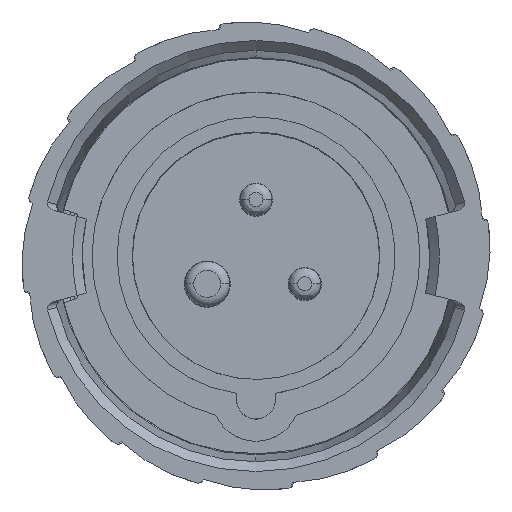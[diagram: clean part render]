
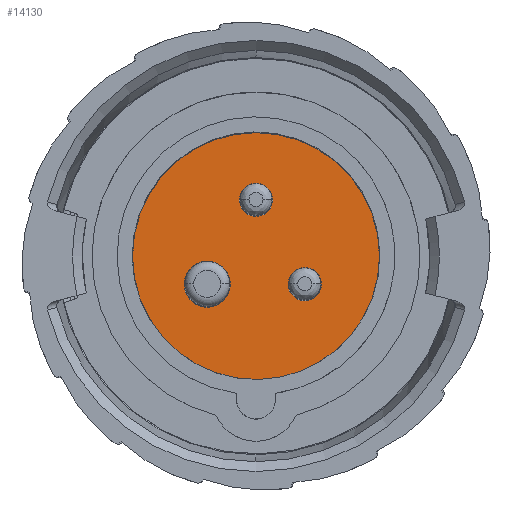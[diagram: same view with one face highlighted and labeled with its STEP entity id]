
A CAD part, top view. The second image highlights one B-rep face of the part: STEP entity #14130.
In plain terms, the highlighted planar face has unit normal (0, 0, 1).
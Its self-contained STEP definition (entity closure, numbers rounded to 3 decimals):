
#13683=CARTESIAN_POINT('',(0.,0.,2.7));
#13684=DIRECTION('',(0.,0.,-1.));
#13685=DIRECTION('',(0.,-1.,0.));
#13686=AXIS2_PLACEMENT_3D('',#13683,#13684,#13685);
#13688=CARTESIAN_POINT('',(0.,0.,2.7));
#13689=DIRECTION('',(0.,0.,-1.));
#13690=DIRECTION('',(0.,1.,0.));
#13691=AXIS2_PLACEMENT_3D('',#13688,#13689,#13690);
#13693=CARTESIAN_POINT('',(-7.578,-4.375,2.7));
#13694=DIRECTION('',(0.,0.,1.));
#13695=DIRECTION('',(0.,-1.,0.));
#13696=AXIS2_PLACEMENT_3D('',#13693,#13694,#13695);
#13698=CARTESIAN_POINT('',(-7.578,-4.375,2.7));
#13699=DIRECTION('',(0.,0.,1.));
#13700=DIRECTION('',(0.,1.,0.));
#13701=AXIS2_PLACEMENT_3D('',#13698,#13699,#13700);
#13703=CARTESIAN_POINT('',(0.,8.75,2.7));
#13704=DIRECTION('',(0.,0.,1.));
#13705=DIRECTION('',(0.,-1.,0.));
#13706=AXIS2_PLACEMENT_3D('',#13703,#13704,#13705);
#13708=CARTESIAN_POINT('',(0.,8.75,2.7));
#13709=DIRECTION('',(0.,0.,1.));
#13710=DIRECTION('',(0.,1.,0.));
#13711=AXIS2_PLACEMENT_3D('',#13708,#13709,#13710);
#13713=CARTESIAN_POINT('',(7.578,-4.375,2.7));
#13714=DIRECTION('',(0.,0.,1.));
#13715=DIRECTION('',(0.,-1.,0.));
#13716=AXIS2_PLACEMENT_3D('',#13713,#13714,#13715);
#13718=CARTESIAN_POINT('',(7.578,-4.375,2.7));
#13719=DIRECTION('',(0.,0.,1.));
#13720=DIRECTION('',(0.,1.,0.));
#13721=AXIS2_PLACEMENT_3D('',#13718,#13719,#13720);
#14009=CARTESIAN_POINT('',(0.,-19.2,2.7));
#14010=CARTESIAN_POINT('',(0.,19.2,2.7));
#14011=VERTEX_POINT('',#14009);
#14012=VERTEX_POINT('',#14010);
#14013=CARTESIAN_POINT('',(-7.578,-7.95,2.7));
#14014=CARTESIAN_POINT('',(-7.578,-0.8,2.7));
#14015=VERTEX_POINT('',#14013);
#14016=VERTEX_POINT('',#14014);
#14017=CARTESIAN_POINT('',(0.,6.175,2.7));
#14018=CARTESIAN_POINT('',(0.,11.325,2.7));
#14019=VERTEX_POINT('',#14017);
#14020=VERTEX_POINT('',#14018);
#14021=CARTESIAN_POINT('',(7.578,-6.95,2.7));
#14022=CARTESIAN_POINT('',(7.578,-1.8,2.7));
#14023=VERTEX_POINT('',#14021);
#14024=VERTEX_POINT('',#14022);
#14101=CARTESIAN_POINT('',(0.,0.,2.7));
#14102=DIRECTION('',(0.,0.,-1.));
#14103=DIRECTION('',(0.,1.,0.));
#14104=AXIS2_PLACEMENT_3D('',#14101,#14102,#14103);
#14105=PLANE('',#14104);
#14107=ORIENTED_EDGE('',*,*,#14106,.T.);
#14109=ORIENTED_EDGE('',*,*,#14108,.T.);
#14110=EDGE_LOOP('',(#14107,#14109));
#14111=FACE_OUTER_BOUND('',#14110,.F.);
#14113=ORIENTED_EDGE('',*,*,#14112,.T.);
#14115=ORIENTED_EDGE('',*,*,#14114,.T.);
#14116=EDGE_LOOP('',(#14113,#14115));
#14117=FACE_BOUND('',#14116,.F.);
#14119=ORIENTED_EDGE('',*,*,#14118,.T.);
#14121=ORIENTED_EDGE('',*,*,#14120,.T.);
#14122=EDGE_LOOP('',(#14119,#14121));
#14123=FACE_BOUND('',#14122,.F.);
#14125=ORIENTED_EDGE('',*,*,#14124,.T.);
#14127=ORIENTED_EDGE('',*,*,#14126,.T.);
#14128=EDGE_LOOP('',(#14125,#14127));
#14129=FACE_BOUND('',#14128,.F.);
#14130=ADVANCED_FACE('',(#14111,#14117,#14123,#14129),#14105,.F.);
#13687=CIRCLE('',#13686,19.2);
#13692=CIRCLE('',#13691,19.2);
#13697=CIRCLE('',#13696,3.575);
#13702=CIRCLE('',#13701,3.575);
#13707=CIRCLE('',#13706,2.575);
#13712=CIRCLE('',#13711,2.575);
#13717=CIRCLE('',#13716,2.575);
#13722=CIRCLE('',#13721,2.575);
#14106=EDGE_CURVE('',#14011,#14012,#13687,.T.);
#14108=EDGE_CURVE('',#14012,#14011,#13692,.T.);
#14112=EDGE_CURVE('',#14015,#14016,#13697,.T.);
#14114=EDGE_CURVE('',#14016,#14015,#13702,.T.);
#14118=EDGE_CURVE('',#14019,#14020,#13707,.T.);
#14120=EDGE_CURVE('',#14020,#14019,#13712,.T.);
#14124=EDGE_CURVE('',#14023,#14024,#13717,.T.);
#14126=EDGE_CURVE('',#14024,#14023,#13722,.T.);
